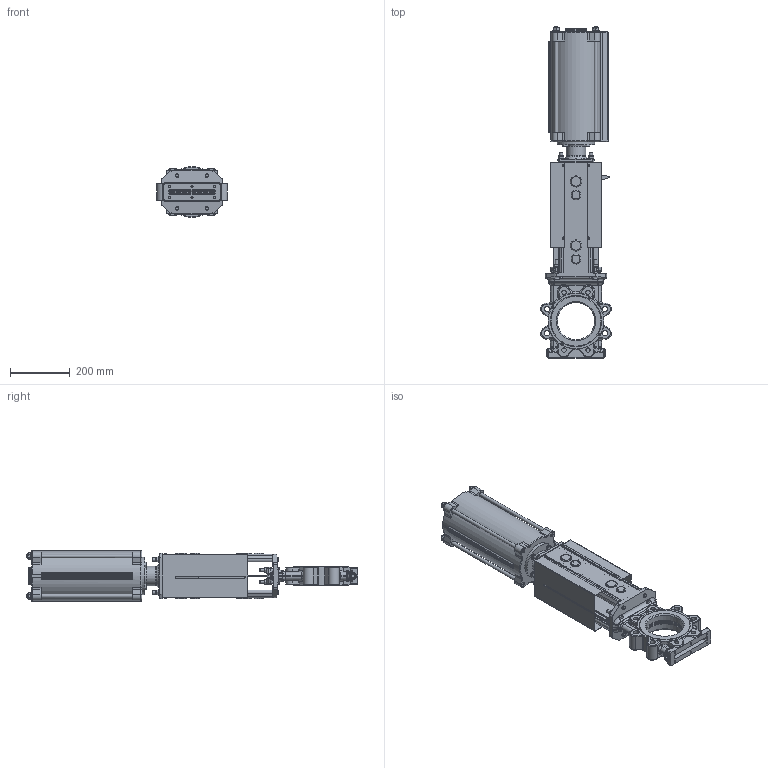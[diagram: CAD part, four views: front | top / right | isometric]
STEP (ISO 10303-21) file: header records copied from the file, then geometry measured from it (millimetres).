
FILE_DESCRIPTION(/* description */ (''),/* implementation_level */ '2;1');
FILE_NAME(/* name */ 'F:\Emir\3D-block special\SLV\SLV-DN125FRSC160-215.stp',/* time_stamp */ '2018-08-31T13:55:09+02:00',/* author */ ('emimus'),/* organization */ (''),/* preprocessor_version */ 'ST-DEVELOPER v17',/* originating_system */ 'Autodesk Inventor 2018',/* authorisation */ '');
FILE_SCHEMA (('CONFIG_CONTROL_DESIGN'));
Products named in the file (1): SLV-DN125FRSC160-215
Bounding box: 237.43 x 1113 x 170 mm (x, y, z)
Volume: 6335338.4 mm3; surface area: 1934380.6 mm2
Topology: 1 solids, 1 shells, 2791 faces, 7135 edges, 4391 vertices
Faces by surface type: plane 960, cylinder 770, bspline 377, cone 301, torus 295, sphere 88
Full cylindrical faces by diameter (mm): 4 x6, 4.134 x12, 4.2 x16, 4.5 x4, 4.917 x4, 6 x2, 6.4 x1, 7 x1, 8 x2, 8.376 x2, 8.88 x1, 9.5 x4, 10 x19, 10.5 x4, 11.445 x2, 12 x25, 13 x11, 14.63 x4, 15 x3, 16 x2, 17.7 x1, 18 x8, 18.376 x1, 19 x4, 19.4 x2, 20 x9, 20.5 x1, 23 x4, 24 x8, 25.8 x2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
Entity records: 130369 total; most frequent: CARTESIAN_POINT 64184, DIRECTION 14155, ORIENTED_EDGE 14096, EDGE_CURVE 7048, AXIS2_PLACEMENT_3D 5910, VERTEX_POINT 4391, CIRCLE 3176, EDGE_LOOP 3057
